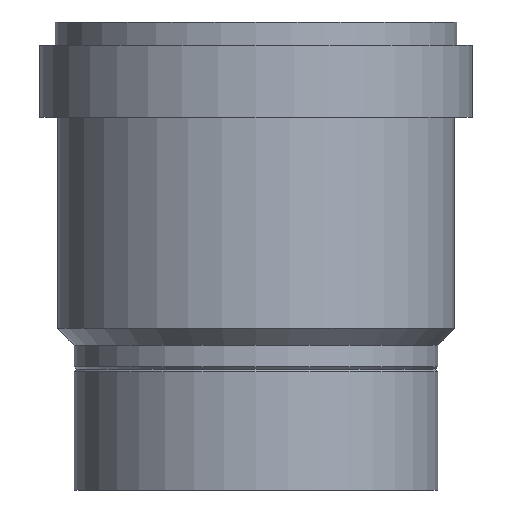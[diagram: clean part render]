
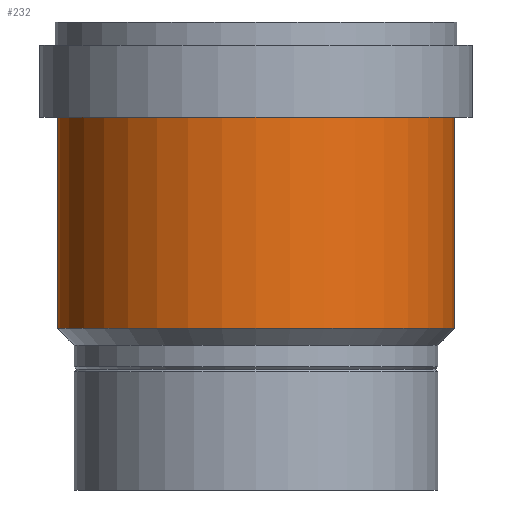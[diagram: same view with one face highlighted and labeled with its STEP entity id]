
A CAD part, front view. The second image highlights one B-rep face of the part: STEP entity #232.
In plain terms, the highlighted cylindrical face has radius 41.15 mm (diameter 82.3 mm), a full revolution.
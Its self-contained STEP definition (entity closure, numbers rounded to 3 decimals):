
#23=CYLINDRICAL_SURFACE('',#281,41.15);
#37=FACE_BOUND('',#84,.T.);
#56=FACE_OUTER_BOUND('',#83,.T.);
#83=EDGE_LOOP('',(#178));
#84=EDGE_LOOP('',(#179));
#114=CIRCLE('',#280,41.15);
#115=CIRCLE('',#282,41.15);
#133=VERTEX_POINT('',#406);
#134=VERTEX_POINT('',#409);
#152=EDGE_CURVE('',#133,#133,#114,.T.);
#153=EDGE_CURVE('',#134,#134,#115,.T.);
#178=ORIENTED_EDGE('',*,*,#152,.T.);
#179=ORIENTED_EDGE('',*,*,#153,.F.);
#232=ADVANCED_FACE('',(#56,#37),#23,.T.);
#280=AXIS2_PLACEMENT_3D('',#407,#337,#338);
#281=AXIS2_PLACEMENT_3D('',#408,#339,#340);
#282=AXIS2_PLACEMENT_3D('',#410,#341,#342);
#337=DIRECTION('center_axis',(0.,0.,-1.));
#338=DIRECTION('ref_axis',(1.,0.,0.));
#339=DIRECTION('center_axis',(0.,0.,-1.));
#340=DIRECTION('ref_axis',(-1.,0.,0.));
#341=DIRECTION('center_axis',(0.,0.,-1.));
#342=DIRECTION('ref_axis',(1.,0.,0.));
#406=CARTESIAN_POINT('',(-41.15,0.,-19.75));
#407=CARTESIAN_POINT('Origin',(0.,0.,-19.75));
#408=CARTESIAN_POINT('Origin',(0.,0.,-41.638));
#409=CARTESIAN_POINT('',(-41.15,0.,-63.525));
#410=CARTESIAN_POINT('Origin',(0.,0.,-63.525));
